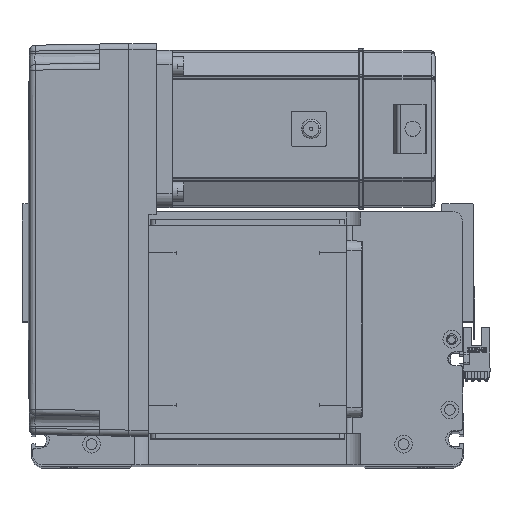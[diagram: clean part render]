
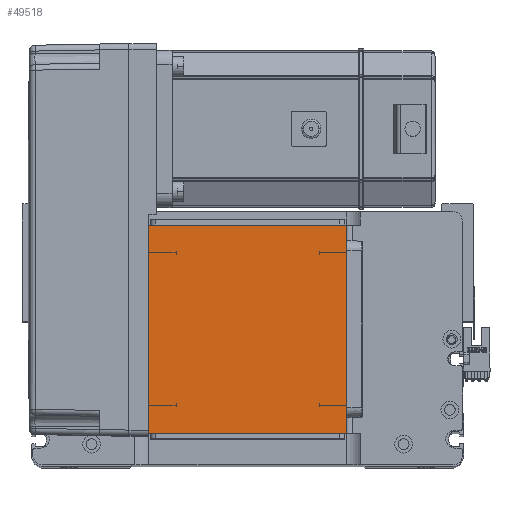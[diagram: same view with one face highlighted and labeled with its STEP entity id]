
A CAD part, top view. The second image highlights one B-rep face of the part: STEP entity #49518.
In plain terms, the highlighted planar face has unit normal (0, 0, 1).
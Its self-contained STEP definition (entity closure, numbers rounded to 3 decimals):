
#1809 = FACE_OUTER_BOUND ( 'NONE', #14050, .T. ) ;
#4812 = VECTOR ( 'NONE', #8063, 1000. ) ;
#4994 = EDGE_CURVE ( 'NONE', #31949, #12097, #25288, .T. ) ;
#8063 = DIRECTION ( 'NONE',  ( 0., 1., 0. ) ) ;
#9215 = LINE ( 'NONE', #24370, #15242 ) ;
#10219 = VECTOR ( 'NONE', #47694, 1000. ) ;
#10319 = ORIENTED_EDGE ( 'NONE', *, *, #15657, .T. ) ;
#10492 = AXIS2_PLACEMENT_3D ( 'NONE', #18879, #46006, #23739 ) ;
#10888 = LINE ( 'NONE', #26373, #42343 ) ;
#12097 = VERTEX_POINT ( 'NONE', #24802 ) ;
#13819 = VERTEX_POINT ( 'NONE', #22003 ) ;
#14050 = EDGE_LOOP ( 'NONE', ( #43749, #22303, #40371, #10319 ) ) ;
#15242 = VECTOR ( 'NONE', #36555, 1000. ) ;
#15657 = EDGE_CURVE ( 'NONE', #33460, #31949, #9215, .T. ) ;
#17437 = CARTESIAN_POINT ( 'NONE',  ( -50.5, 122., 115. ) ) ;
#18879 = CARTESIAN_POINT ( 'NONE',  ( 0., 0., 115. ) ) ;
#19403 = CARTESIAN_POINT ( 'NONE',  ( 50.5, 122., 115. ) ) ;
#19534 = EDGE_CURVE ( 'NONE', #12097, #13819, #10888, .T. ) ;
#19895 = LINE ( 'NONE', #43019, #4812 ) ;
#22003 = CARTESIAN_POINT ( 'NONE',  ( 50.5, 16., 115. ) ) ;
#22303 = ORIENTED_EDGE ( 'NONE', *, *, #19534, .T. ) ;
#23739 = DIRECTION ( 'NONE',  ( 1., 0., 0. ) ) ;
#24370 = CARTESIAN_POINT ( 'NONE',  ( -50.5, 122., 115. ) ) ;
#24751 = CARTESIAN_POINT ( 'NONE',  ( -50.5, 122., 115. ) ) ;
#24802 = CARTESIAN_POINT ( 'NONE',  ( -50.5, 16., 115. ) ) ;
#25288 = LINE ( 'NONE', #24751, #10219 ) ;
#26373 = CARTESIAN_POINT ( 'NONE',  ( -50.5, 16., 115. ) ) ;
#31949 = VERTEX_POINT ( 'NONE', #17437 ) ;
#33460 = VERTEX_POINT ( 'NONE', #19403 ) ;
#36555 = DIRECTION ( 'NONE',  ( -1., 0., 0. ) ) ;
#40371 = ORIENTED_EDGE ( 'NONE', *, *, #42262, .T. ) ;
#41574 = PLANE ( 'NONE',  #10492 ) ;
#42262 = EDGE_CURVE ( 'NONE', #13819, #33460, #19895, .T. ) ;
#42343 = VECTOR ( 'NONE', #45913, 1000. ) ;
#43019 = CARTESIAN_POINT ( 'NONE',  ( 50.5, 122., 115. ) ) ;
#43749 = ORIENTED_EDGE ( 'NONE', *, *, #4994, .T. ) ;
#45913 = DIRECTION ( 'NONE',  ( 1., 0., 0. ) ) ;
#46006 = DIRECTION ( 'NONE',  ( 0., 0., 1. ) ) ;
#47694 = DIRECTION ( 'NONE',  ( 0., -1., 0. ) ) ;
#49518 = ADVANCED_FACE ( 'NONE', ( #1809 ), #41574, .T. ) ;
